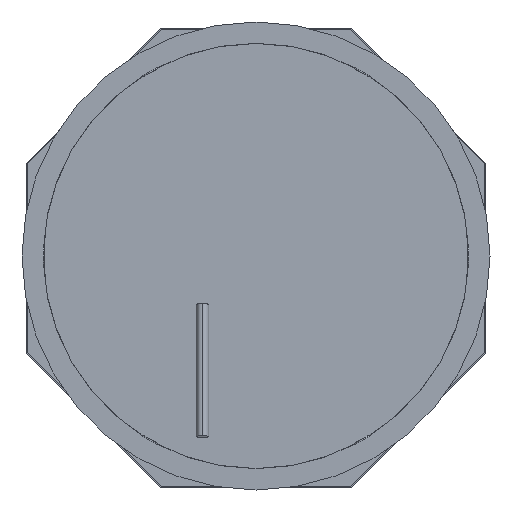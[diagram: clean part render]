
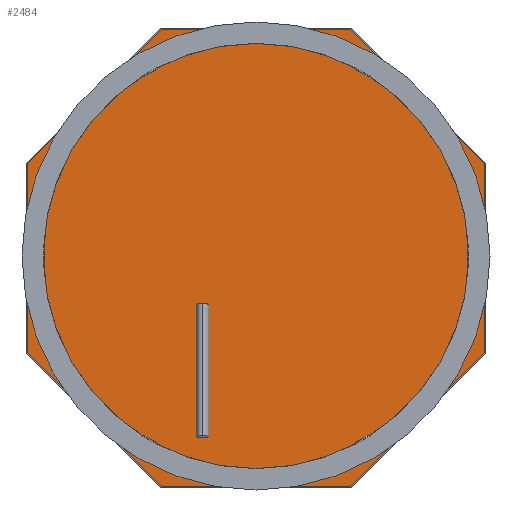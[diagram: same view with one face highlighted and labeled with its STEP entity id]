
A CAD part, front view. The second image highlights one B-rep face of the part: STEP entity #2484.
In plain terms, the highlighted planar face has unit normal (0, -1, 0).
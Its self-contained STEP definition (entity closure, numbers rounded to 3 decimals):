
#2052=DIRECTION('',(-0.707,0.,0.707));
#2053=VECTOR('',#2052,353.738);
#2054=CARTESIAN_POINT('',(-176.869,52.75,-431.));
#2055=LINE('',#2054,#2053);
#2060=DIRECTION('',(0.,0.,1.));
#2061=VECTOR('',#2060,353.738);
#2062=CARTESIAN_POINT('',(-427.,52.75,-180.869));
#2063=LINE('',#2062,#2061);
#2068=DIRECTION('',(0.707,0.,0.707));
#2069=VECTOR('',#2068,353.738);
#2070=CARTESIAN_POINT('',(-427.,52.75,172.869));
#2071=LINE('',#2070,#2069);
#2076=DIRECTION('',(1.,0.,0.));
#2077=VECTOR('',#2076,353.738);
#2078=CARTESIAN_POINT('',(-176.869,52.75,423.));
#2079=LINE('',#2078,#2077);
#2084=DIRECTION('',(0.707,0.,-0.707));
#2085=VECTOR('',#2084,353.738);
#2086=CARTESIAN_POINT('',(176.869,52.75,423.));
#2087=LINE('',#2086,#2085);
#2092=DIRECTION('',(0.,0.,-1.));
#2093=VECTOR('',#2092,353.738);
#2094=CARTESIAN_POINT('',(427.,52.75,172.869));
#2095=LINE('',#2094,#2093);
#2100=DIRECTION('',(-0.707,0.,-0.707));
#2101=VECTOR('',#2100,353.738);
#2102=CARTESIAN_POINT('',(427.,52.75,-180.869));
#2103=LINE('',#2102,#2101);
#2108=DIRECTION('',(-1.,0.,0.));
#2109=VECTOR('',#2108,353.738);
#2110=CARTESIAN_POINT('',(176.869,52.75,-431.));
#2111=LINE('',#2110,#2109);
#2205=CARTESIAN_POINT('',(-176.869,52.75,-431.));
#2206=CARTESIAN_POINT('',(-427.,52.75,-180.869));
#2207=VERTEX_POINT('',#2205);
#2208=VERTEX_POINT('',#2206);
#2209=CARTESIAN_POINT('',(176.869,52.75,-431.));
#2210=VERTEX_POINT('',#2209);
#2211=CARTESIAN_POINT('',(427.,52.75,-180.869));
#2212=VERTEX_POINT('',#2211);
#2213=CARTESIAN_POINT('',(427.,52.75,172.869));
#2214=VERTEX_POINT('',#2213);
#2215=CARTESIAN_POINT('',(176.869,52.75,423.));
#2216=VERTEX_POINT('',#2215);
#2217=CARTESIAN_POINT('',(-176.869,52.75,423.));
#2218=VERTEX_POINT('',#2217);
#2219=CARTESIAN_POINT('',(-427.,52.75,172.869));
#2220=VERTEX_POINT('',#2219);
#2462=CARTESIAN_POINT('',(0.,52.75,0.));
#2463=DIRECTION('',(0.,1.,0.));
#2464=DIRECTION('',(1.,0.,0.));
#2465=AXIS2_PLACEMENT_3D('',#2462,#2463,#2464);
#2466=PLANE('',#2465);
#2467=ORIENTED_EDGE('',*,*,#2452,.T.);
#2469=ORIENTED_EDGE('',*,*,#2468,.T.);
#2471=ORIENTED_EDGE('',*,*,#2470,.T.);
#2473=ORIENTED_EDGE('',*,*,#2472,.T.);
#2475=ORIENTED_EDGE('',*,*,#2474,.T.);
#2477=ORIENTED_EDGE('',*,*,#2476,.T.);
#2479=ORIENTED_EDGE('',*,*,#2478,.T.);
#2481=ORIENTED_EDGE('',*,*,#2480,.T.);
#2482=EDGE_LOOP('',(#2467,#2469,#2471,#2473,#2475,#2477,#2479,#2481));
#2483=FACE_OUTER_BOUND('',#2482,.F.);
#2484=ADVANCED_FACE('',(#2483),#2466,.F.);
#2452=EDGE_CURVE('',#2207,#2208,#2055,.T.);
#2468=EDGE_CURVE('',#2208,#2220,#2063,.T.);
#2470=EDGE_CURVE('',#2220,#2218,#2071,.T.);
#2472=EDGE_CURVE('',#2218,#2216,#2079,.T.);
#2474=EDGE_CURVE('',#2216,#2214,#2087,.T.);
#2476=EDGE_CURVE('',#2214,#2212,#2095,.T.);
#2478=EDGE_CURVE('',#2212,#2210,#2103,.T.);
#2480=EDGE_CURVE('',#2210,#2207,#2111,.T.);
